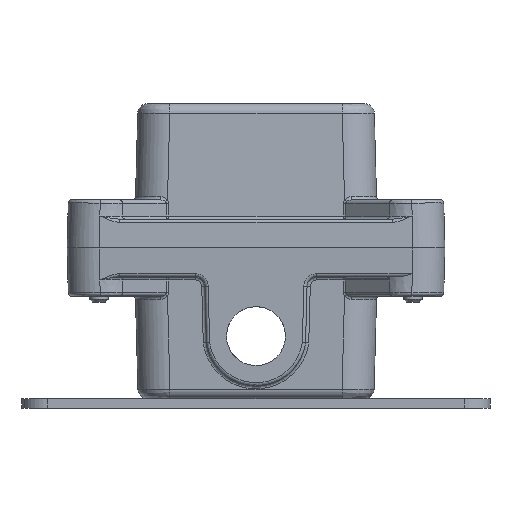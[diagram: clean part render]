
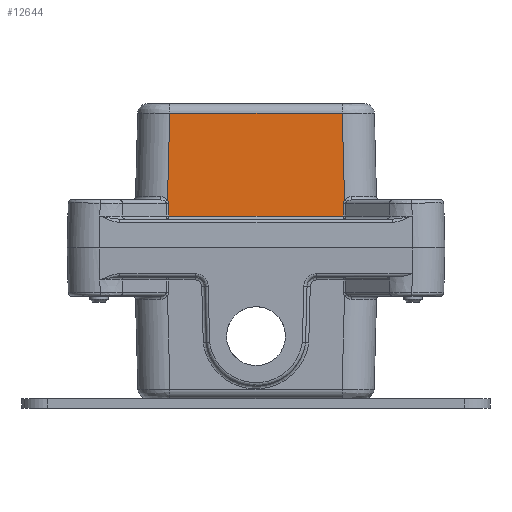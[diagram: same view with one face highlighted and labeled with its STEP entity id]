
A CAD part, left-side view. The second image highlights one B-rep face of the part: STEP entity #12644.
In plain terms, the highlighted planar face has unit normal (-1, 0, 0.026) as drawn and (0, 0.026, -1) by its records, which use the part's own axes.
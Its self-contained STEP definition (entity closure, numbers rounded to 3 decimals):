
#12644=ADVANCED_FACE('',(#44782),#44784,.T.);
#44782=FACE_BOUND('',#44783,.T.);
#44783=EDGE_LOOP('',(#56632,#56633,#56634,#56635,#56636,#56637,#56638,#56639));
#44784=PLANE('',#44785);
#44785=AXIS2_PLACEMENT_3D('',#44786,#44787,#44788);
#44786=CARTESIAN_POINT('',(27.676,9.5,-84.768));
#44787=DIRECTION('',(0.,0.026,-1.));
#44788=DIRECTION('',(-1.,0.,0.));
#56632=ORIENTED_EDGE('',*,*,#61071,.T.);
#56633=ORIENTED_EDGE('',*,*,#61069,.T.);
#56634=ORIENTED_EDGE('',*,*,#61285,.F.);
#56635=ORIENTED_EDGE('',*,*,#61282,.T.);
#56636=ORIENTED_EDGE('',*,*,#61286,.F.);
#56637=ORIENTED_EDGE('',*,*,#61287,.F.);
#56638=ORIENTED_EDGE('',*,*,#61288,.F.);
#56639=ORIENTED_EDGE('',*,*,#61075,.F.);
#61069=EDGE_CURVE('',#66851,#66853,#66855,.T.);
#61071=EDGE_CURVE('',#66857,#66851,#66858,.T.);
#61075=EDGE_CURVE('',#66857,#66862,#66863,.T.);
#61282=EDGE_CURVE('',#67171,#67169,#67172,.T.);
#61285=EDGE_CURVE('',#67171,#66853,#67175,.T.);
#61286=EDGE_CURVE('',#67176,#67169,#67177,.T.);
#61287=EDGE_CURVE('',#67178,#67176,#67179,.T.);
#61288=EDGE_CURVE('',#66862,#67178,#67180,.F.);
#66851=VERTEX_POINT('',#90473);
#66853=VERTEX_POINT('',#90478);
#66855=LINE('',#90487,#90488);
#66857=VERTEX_POINT('',#90494);
#66858=LINE('',#90495,#90496);
#66862=VERTEX_POINT('',#90510);
#66863=LINE('',#90511,#90512);
#67169=VERTEX_POINT('',#92330);
#67171=VERTEX_POINT('',#92356);
#67172=LINE('',#92357,#92358);
#67175=B_SPLINE_CURVE_WITH_KNOTS('',3,
(#92383,#92384,#92385,#92386,#92387,#92388,#92389,#92390,#92391,#92392,#92393,#92394,
#92395,#92396,#92397,#92398),
.UNSPECIFIED.,.F.,.F.,
(4,2,2,2,2,2,2,4),
(0.,0.145,0.285,0.427,0.573,0.724,
0.901,1.),
.UNSPECIFIED.);
#67176=VERTEX_POINT('',#92399);
#67177=LINE('',#92400,#92401);
#67178=VERTEX_POINT('',#92403);
#67179=LINE('',#92404,#92405);
#67180=B_SPLINE_CURVE_WITH_KNOTS('',3,
(#92407,#92408,#92409,#92410,#92411,#92412,#92413,#92414,#92415,#92416,#92417,#92418,
#92419,#92420,#92421,#92422),
.UNSPECIFIED.,.F.,.F.,
(4,2,2,2,2,2,2,4),
(0.,0.145,0.285,0.427,0.573,0.724,
0.901,1.),
.UNSPECIFIED.);
#90473=CARTESIAN_POINT('',(-27.273,10.474,-84.743));
#90478=CARTESIAN_POINT('',(-27.317,14.526,-84.637));
#90487=CARTESIAN_POINT('',(-27.273,10.474,-84.743));
#90488=VECTOR('',#90489,1.);
#90489=DIRECTION('',(-0.011,1.,0.026));
#90494=CARTESIAN_POINT('',(27.273,10.474,-84.743));
#90495=CARTESIAN_POINT('',(27.273,10.474,-84.743));
#90496=VECTOR('',#90497,1.);
#90497=DIRECTION('',(-1.,0.,0.));
#90510=CARTESIAN_POINT('',(27.317,14.526,-84.637));
#90511=CARTESIAN_POINT('',(27.273,10.474,-84.743));
#90512=VECTOR('',#90513,1.);
#90513=DIRECTION('',(0.011,1.,0.026));
#92330=CARTESIAN_POINT('',(-26.906,42.579,-83.902));
#92356=CARTESIAN_POINT('',(-27.617,15.404,-84.614));
#92357=CARTESIAN_POINT('',(-27.617,15.404,-84.614));
#92358=VECTOR('',#92359,1.);
#92359=DIRECTION('',(0.026,0.999,0.026));
#92383=CARTESIAN_POINT('',(-27.617,15.404,-84.614));
#92384=CARTESIAN_POINT('',(-27.592,15.368,-84.615));
#92385=CARTESIAN_POINT('',(-27.568,15.332,-84.616));
#92386=CARTESIAN_POINT('',(-27.523,15.259,-84.617));
#92387=CARTESIAN_POINT('',(-27.502,15.222,-84.618));
#92388=CARTESIAN_POINT('',(-27.463,15.146,-84.62));
#92389=CARTESIAN_POINT('',(-27.445,15.106,-84.622));
#92390=CARTESIAN_POINT('',(-27.41,15.022,-84.624));
#92391=CARTESIAN_POINT('',(-27.395,14.979,-84.625));
#92392=CARTESIAN_POINT('',(-27.367,14.888,-84.627));
#92393=CARTESIAN_POINT('',(-27.355,14.841,-84.628));
#92394=CARTESIAN_POINT('',(-27.334,14.737,-84.631));
#92395=CARTESIAN_POINT('',(-27.325,14.68,-84.633));
#92396=CARTESIAN_POINT('',(-27.318,14.591,-84.635));
#92397=CARTESIAN_POINT('',(-27.318,14.558,-84.636));
#92398=CARTESIAN_POINT('',(-27.317,14.526,-84.637));
#92399=CARTESIAN_POINT('',(26.906,42.579,-83.902));
#92400=CARTESIAN_POINT('',(26.906,42.579,-83.902));
#92401=VECTOR('',#92402,1.);
#92402=DIRECTION('',(-1.,0.,0.));
#92403=CARTESIAN_POINT('',(27.617,15.404,-84.614));
#92404=CARTESIAN_POINT('',(27.617,15.404,-84.614));
#92405=VECTOR('',#92406,1.);
#92406=DIRECTION('',(-0.026,0.999,0.026));
#92407=CARTESIAN_POINT('',(27.617,15.404,-84.614));
#92408=CARTESIAN_POINT('',(27.592,15.368,-84.615));
#92409=CARTESIAN_POINT('',(27.568,15.332,-84.616));
#92410=CARTESIAN_POINT('',(27.523,15.259,-84.617));
#92411=CARTESIAN_POINT('',(27.502,15.222,-84.618));
#92412=CARTESIAN_POINT('',(27.463,15.146,-84.62));
#92413=CARTESIAN_POINT('',(27.445,15.106,-84.622));
#92414=CARTESIAN_POINT('',(27.41,15.022,-84.624));
#92415=CARTESIAN_POINT('',(27.395,14.979,-84.625));
#92416=CARTESIAN_POINT('',(27.367,14.888,-84.627));
#92417=CARTESIAN_POINT('',(27.355,14.841,-84.628));
#92418=CARTESIAN_POINT('',(27.334,14.737,-84.631));
#92419=CARTESIAN_POINT('',(27.325,14.68,-84.633));
#92420=CARTESIAN_POINT('',(27.318,14.591,-84.635));
#92421=CARTESIAN_POINT('',(27.318,14.558,-84.636));
#92422=CARTESIAN_POINT('',(27.317,14.526,-84.637));
